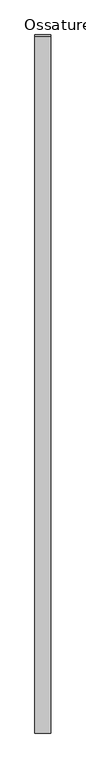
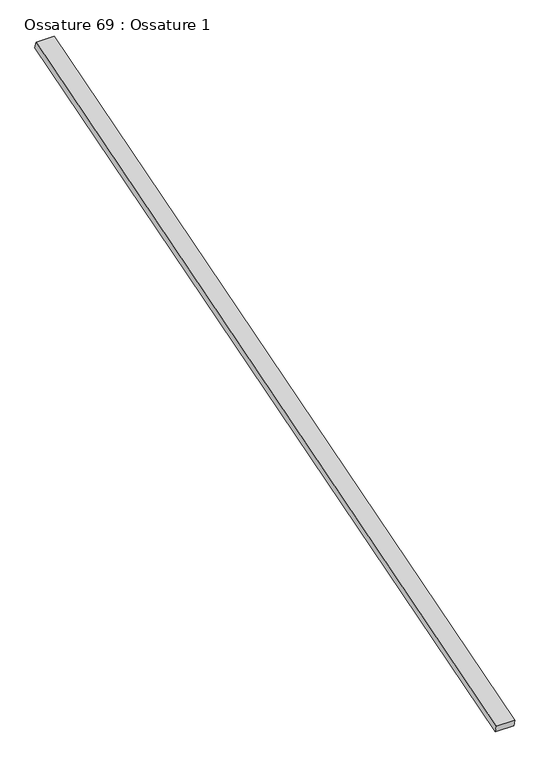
"""IFC4 building model written with IfcOpenShell, lengths in millimetres: beam geometry, Ossature 69 : Ossature 1."""

from ifc_helpers import new_model, si_unit, frame, origin, place, context, project, spatial, polyline, outline, extrude, source, transform, mapped, element, save


def ossature_69_ossature_1_1f6dea0b(model_context):
    return source(origin(), model_context, "Body", "SweptSolid", [
        extrude(outline(polyline([(0.0, 0.0), (0.0, -4543.0299679), (-100.0, -4543.0299679), (-100.0, 0.0), (0.0, 0.0)])), frame((16723.8466393, -833.3913565, 8153.6336115), z_axis=(0.0, -0.28734788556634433, 0.9578262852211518), x_axis=(-1.0, 0.0, 0.0)), (0.0, 0.0, 1.0), 40.0),
    ])


if __name__ == "__main__":
    model = new_model("IFC4")
    model_context = context("Model", 3, world=origin())
    ifc_project = project(units=[si_unit("LENGTHUNIT", "METRE", prefix="MILLI")], contexts=[model_context])
    site = spatial("IfcSite", under=ifc_project)
    building = spatial("IfcBuilding", under=site)
    placement = place(None, origin())
    ossature_69_ossature_1_shape = ossature_69_ossature_1_1f6dea0b(model_context)
    element("IfcBeam", 1, ObjectType="Ossature 69 : Ossature 1", at=placement, inside=building, context=model_context, shape_type="MappedRepresentation", body=[
        mapped(ossature_69_ossature_1_shape, transform((0.0, 0.0, 0.0), x_axis=(1.0, 0.0, 0.0), y_axis=(0.0, 1.0, 0.0), z_axis=(0.0, 0.0, 1.0))),
    ])
    save(model, "model.ifc")
